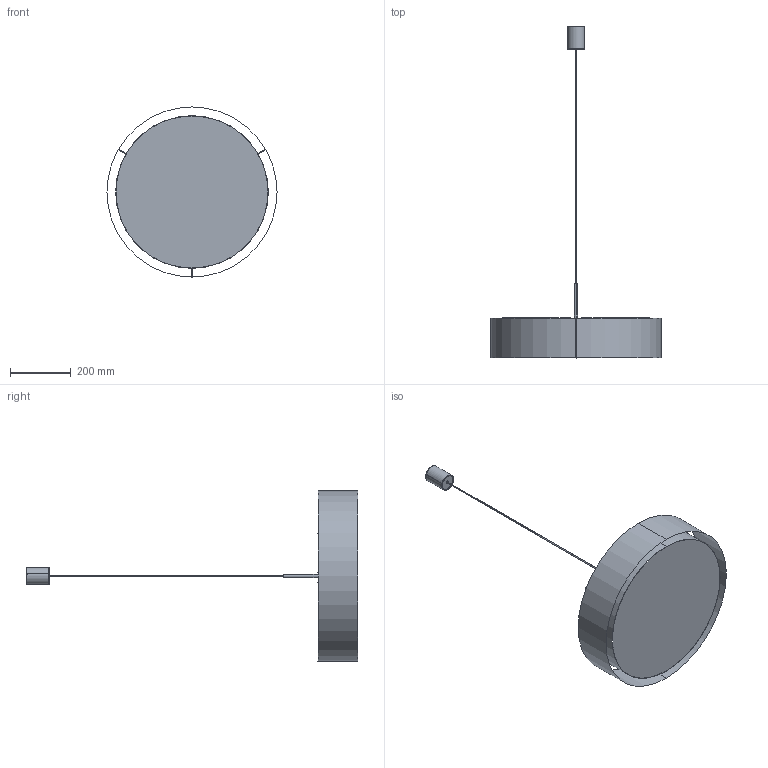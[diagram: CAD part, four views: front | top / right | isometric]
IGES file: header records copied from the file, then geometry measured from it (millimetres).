
Start section: SolidWorks IGES file using analytic representation for surfaces
Global section: file name: Z:\Modele 3D_WWW\_KOLEKCJE_WWW\MIST\MIST-8942\MIST-8942.IGS; native system: SolidWorks 2020; preprocessor: SolidWorks 2020; author: gabriela.tworek; date: 210222.092942; units: millimetre
Bounding box: 560 x 1092.41 x 560 mm (x, y, z)
Surface area: 818244.4 mm2 (no closed solid volume)
Topology: 0 solids, 0 shells, 305 faces, 4977 edges, 4917 vertices
Faces by surface type: revolution 157, bspline 148
